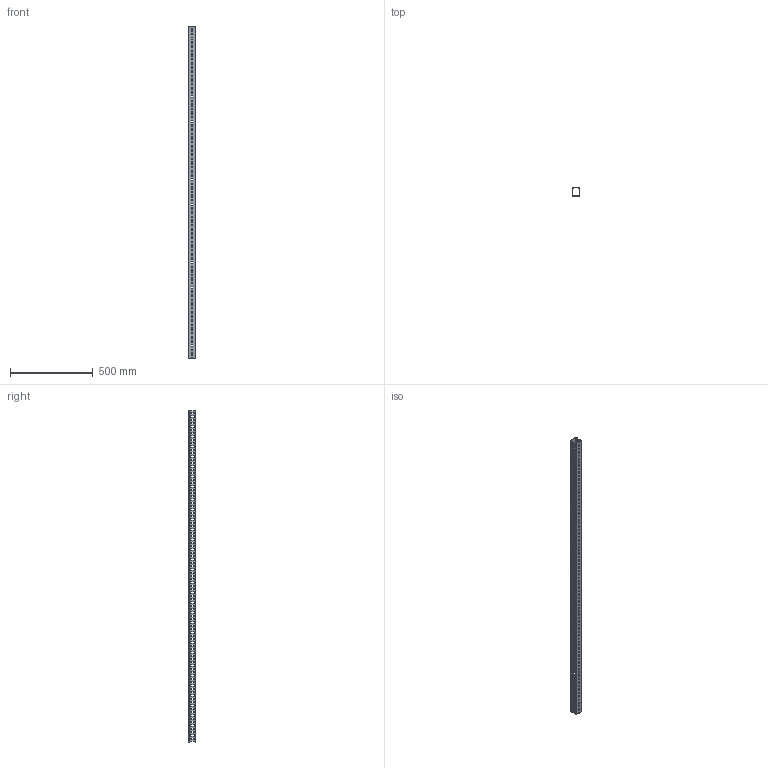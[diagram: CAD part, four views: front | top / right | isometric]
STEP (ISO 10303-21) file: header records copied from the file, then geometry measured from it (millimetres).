
FILE_DESCRIPTION (( 'STEP AP203' ), '1' );
FILE_NAME ('03-1634.STEP', '2021-04-22T08:50:23', ( '' ), ( '' ), 'SwSTEP 2.0', 'SolidWorks 2016', '' );
FILE_SCHEMA (( 'CONFIG_CONTROL_DESIGN' ));
Length unit declared in the file: millimetre
Products named in the file (3): 03-1127_Lg 100-Noryl; 03-1634; 03-1128_Perfor‚ C-A12-8_Noryl
Assembly tree (2 placements, depth 2):
  03-1634
    03-1128_Perfor‚ C-A12-8_Noryl
    03-1127_Lg 100-Noryl
Bounding box: 48 x 48 x 2000 mm (x, y, z)
Volume: 435430.2 mm3; surface area: 521915.6 mm2
Topology: 2 solids, 2 shells, 2398 faces, 7776 edges, 5184 vertices
Faces by surface type: plane 1406, cylinder 992
Entity records: 87397 total; most frequent: CARTESIAN_POINT 17763, ORIENTED_EDGE 15552, DIRECTION 14166, EDGE_CURVE 7776, VERTEX_POINT 5184, AXIS2_PLACEMENT_3D 4787, VECTOR 4592, LINE 4592
